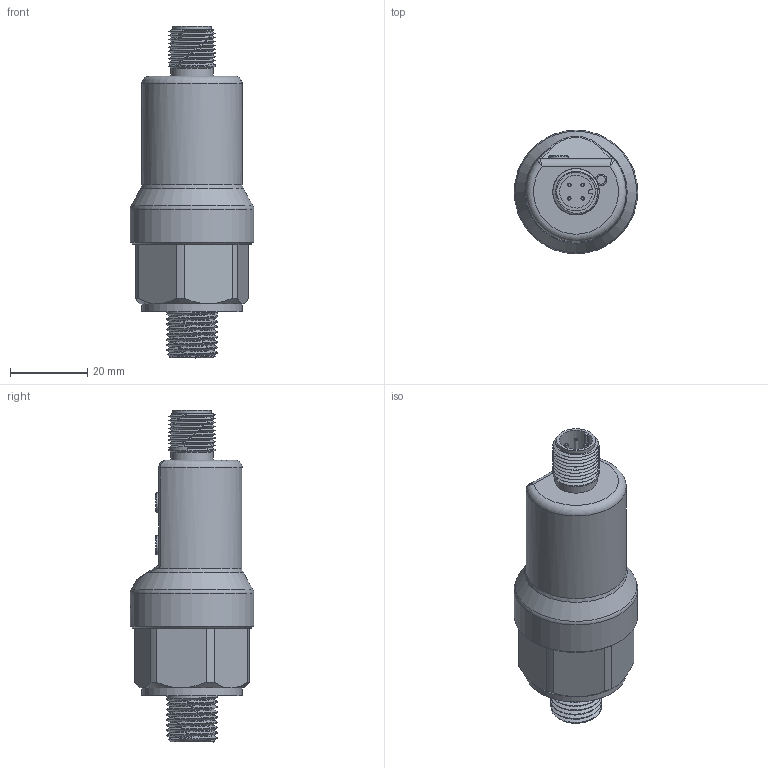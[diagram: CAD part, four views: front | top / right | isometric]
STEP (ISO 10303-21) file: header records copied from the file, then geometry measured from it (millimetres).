
FILE_DESCRIPTION( (''), '2;1');
FILE_NAME( 'PSKA_R1-4.step', '2025-08-21T15:34:34+08:00', (''), (''), '', '', '');
FILE_SCHEMA (('AUTOMOTIVE_DESIGN { 1 0 10303 214 3 1 1 1 }'));
Length unit declared in the file: millimetre
Products named in the file (1): PSKA R1-4
Bounding box: 32 x 32 x 86 mm (x, y, z)
Volume: 20113.3 mm3; surface area: 18560.7 mm2
Topology: 11 solids, 11 shells, 268 faces, 611 edges, 391 vertices
Faces by surface type: plane 140, cylinder 65, cone 25, torus 22, bspline 15, sphere 1
Full cylindrical faces by diameter (mm): 0.5 x2, 0.9 x8, 2 x4, 2.6 x1, 3 x1, 4 x1, 5 x2, 5.3 x2, 7 x1, 9.8 x2, 10 x1, 11 x1, 19.1 x1, 23 x2, 26 x4, 26.1 x1, 32 x1
Entity records: 12064 total; most frequent: CARTESIAN_POINT 6342, DIRECTION 1141, ORIENTED_EDGE 1046, EDGE_CURVE 523, AXIS2_PLACEMENT_3D 446, EDGE_LOOP 375, VERTEX_POINT 370, ADVANCED_FACE 268
